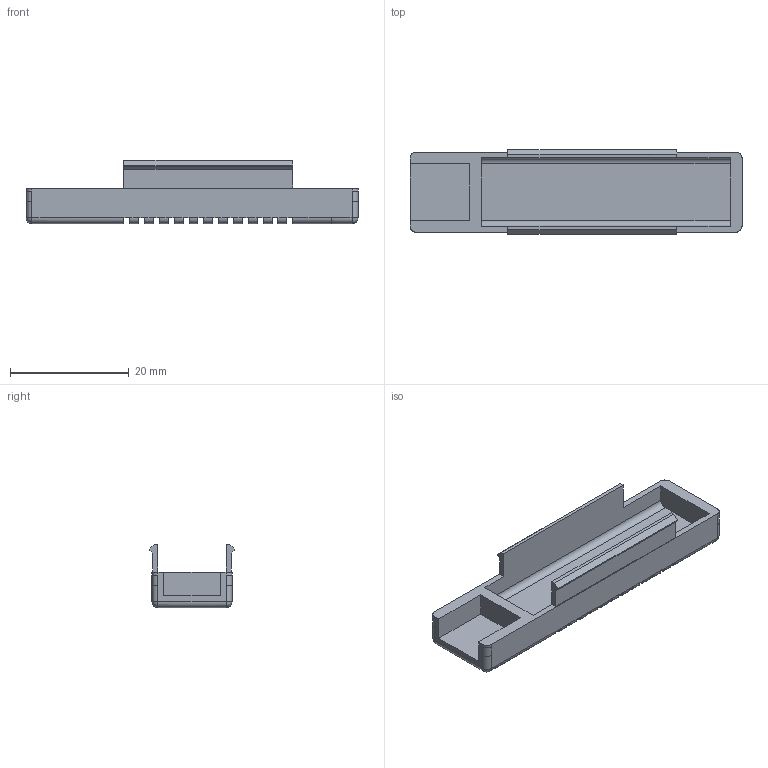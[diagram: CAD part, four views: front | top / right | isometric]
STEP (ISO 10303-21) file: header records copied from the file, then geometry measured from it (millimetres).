
FILE_DESCRIPTION(/* description */ (''),/* implementation_level */ '2;1');
FILE_NAME(/* name */ 'slider',/* time_stamp */ '2018-12-30T13:36:03+00:00',/* author */ (''),/* organization */ (''),/* preprocessor_version */ 'ST-DEVELOPER v16.5',/* originating_system */ '',/* authorisation */ '');
FILE_SCHEMA (('AUTOMOTIVE_DESIGN'));
Length unit declared in the file: millimetre
Products named in the file (1): Document
Bounding box: 56 x 14.3 x 10.7 mm (x, y, z)
Volume: 2309.4 mm3; surface area: 3613.2 mm2
Topology: 1 solids, 1 shells, 125 faces, 306 edges, 184 vertices
Faces by surface type: plane 77, bspline 48
Entity records: 3304 total; most frequent: CARTESIAN_POINT 1341, ORIENTED_EDGE 612, EDGE_CURVE 306, B_SPLINE_CURVE_WITH_KNOTS 228, VERTEX_POINT 184, EDGE_LOOP 126, ADVANCED_FACE 125, FACE_OUTER_BOUND 125
